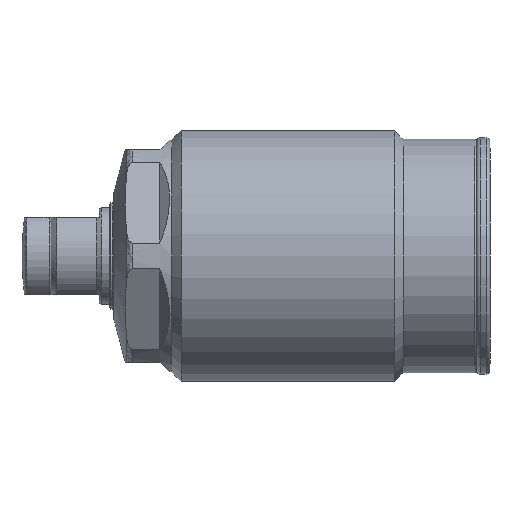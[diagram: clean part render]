
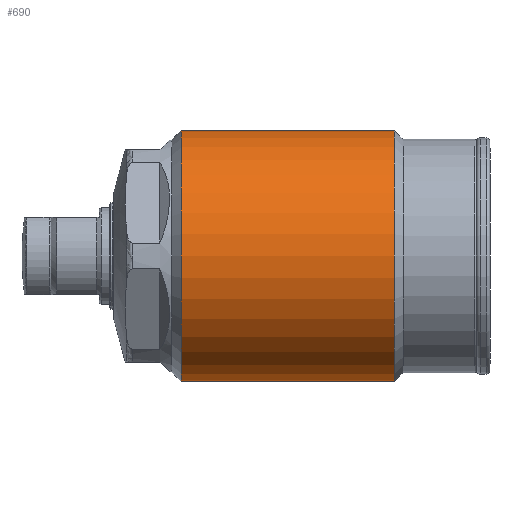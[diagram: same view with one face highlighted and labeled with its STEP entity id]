
A CAD part, left-side view. The second image highlights one B-rep face of the part: STEP entity #690.
In plain terms, the highlighted cylindrical face has radius 13 mm (diameter 26 mm), a partial arc.
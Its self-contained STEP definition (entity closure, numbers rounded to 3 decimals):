
#342=CYLINDRICAL_SURFACE('',#3013,13.);
#416=LINE('',#4679,#518);
#417=LINE('',#4680,#519);
#518=VECTOR('',#3643,1.);
#519=VECTOR('',#3644,1.);
#690=ADVANCED_FACE('',(#907),#342,.T.);
#907=FACE_OUTER_BOUND('',#1083,.T.);
#1083=EDGE_LOOP('',(#1728,#1729,#1730,#1731));
#1728=ORIENTED_EDGE('',*,*,#2327,.F.);
#1729=ORIENTED_EDGE('',*,*,#2410,.T.);
#1730=ORIENTED_EDGE('',*,*,#2328,.T.);
#1731=ORIENTED_EDGE('',*,*,#2411,.F.);
#2021=VERTEX_POINT('',#4671);
#2022=VERTEX_POINT('',#4673);
#2023=VERTEX_POINT('',#4677);
#2024=VERTEX_POINT('',#4678);
#2327=EDGE_CURVE('',#2024,#2022,#416,.T.);
#2328=EDGE_CURVE('',#2023,#2021,#417,.T.);
#2410=EDGE_CURVE('',#2024,#2023,#2648,.T.);
#2411=EDGE_CURVE('',#2022,#2021,#2649,.T.);
#2648=CIRCLE('',#3010,13.);
#2649=CIRCLE('',#3012,13.);
#3010=AXIS2_PLACEMENT_3D('',#5024,#3851,#3852);
#3012=AXIS2_PLACEMENT_3D('',#5026,#3855,#3856);
#3013=AXIS2_PLACEMENT_3D('',#5027,#3857,#3858);
#3643=DIRECTION('',(0.,1.,0.));
#3644=DIRECTION('',(0.,1.,0.));
#3851=DIRECTION('',(0.,1.,0.));
#3852=DIRECTION('',(0.,0.,1.));
#3855=DIRECTION('',(0.,1.,0.));
#3856=DIRECTION('',(0.,0.,1.));
#3857=DIRECTION('',(0.,1.,0.));
#3858=DIRECTION('',(0.,0.,-1.));
#4671=CARTESIAN_POINT('',(0.,35.766,13.));
#4673=CARTESIAN_POINT('',(0.,35.766,-13.));
#4677=CARTESIAN_POINT('',(0.,13.666,13.));
#4678=CARTESIAN_POINT('',(0.,13.666,-13.));
#4679=CARTESIAN_POINT('',(0.,60.264,-13.));
#4680=CARTESIAN_POINT('',(0.,60.264,13.));
#5024=CARTESIAN_POINT('',(0.,13.666,0.));
#5026=CARTESIAN_POINT('',(0.,35.766,0.));
#5027=CARTESIAN_POINT('',(0.,60.264,0.));
